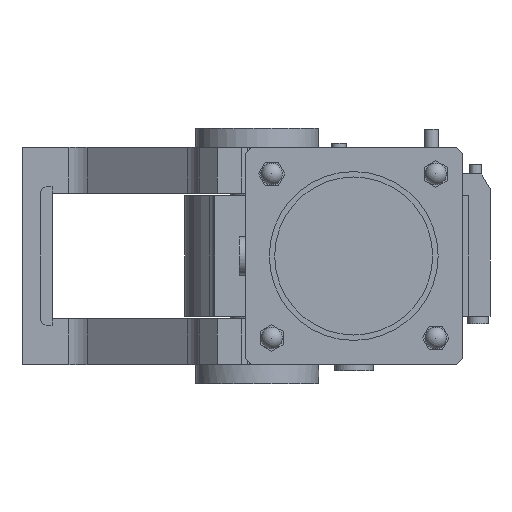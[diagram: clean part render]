
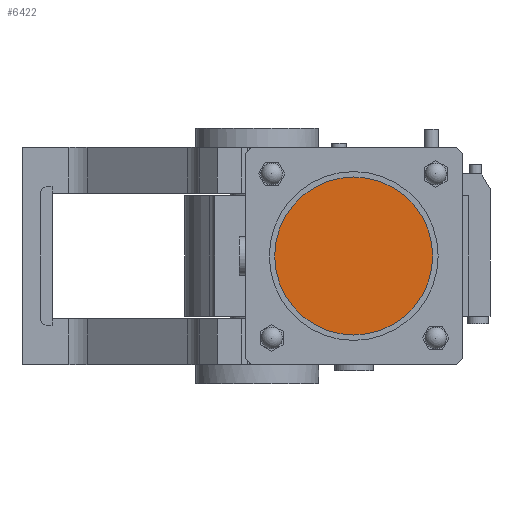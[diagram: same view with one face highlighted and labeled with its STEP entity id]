
A CAD part, front view. The second image highlights one B-rep face of the part: STEP entity #6422.
In plain terms, the highlighted planar face has unit normal (0, -1, 0).
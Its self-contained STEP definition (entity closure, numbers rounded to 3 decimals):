
#1500=PLANE('',#7107);
#2010=FACE_OUTER_BOUND('',#2500,.T.);
#2500=EDGE_LOOP('',(#5198));
#2829=CIRCLE('',#7018,65.5);
#3149=VERTEX_POINT('',#9883);
#3817=EDGE_CURVE('',#3149,#3149,#2829,.T.);
#5198=ORIENTED_EDGE('',*,*,#3817,.T.);
#6422=ADVANCED_FACE('',(#2010),#1500,.T.);
#7018=AXIS2_PLACEMENT_3D('',#9884,#8014,#8015);
#7107=AXIS2_PLACEMENT_3D('',#10196,#8312,#8313);
#8014=DIRECTION('center_axis',(0.,-1.,0.));
#8015=DIRECTION('ref_axis',(0.,0.,-1.));
#8312=DIRECTION('center_axis',(0.,-1.,0.));
#8313=DIRECTION('ref_axis',(0.,0.,-1.));
#9883=CARTESIAN_POINT('',(80.,-622.,65.5));
#9884=CARTESIAN_POINT('Origin',(80.,-622.,0.));
#10196=CARTESIAN_POINT('Origin',(80.,-622.,0.));
